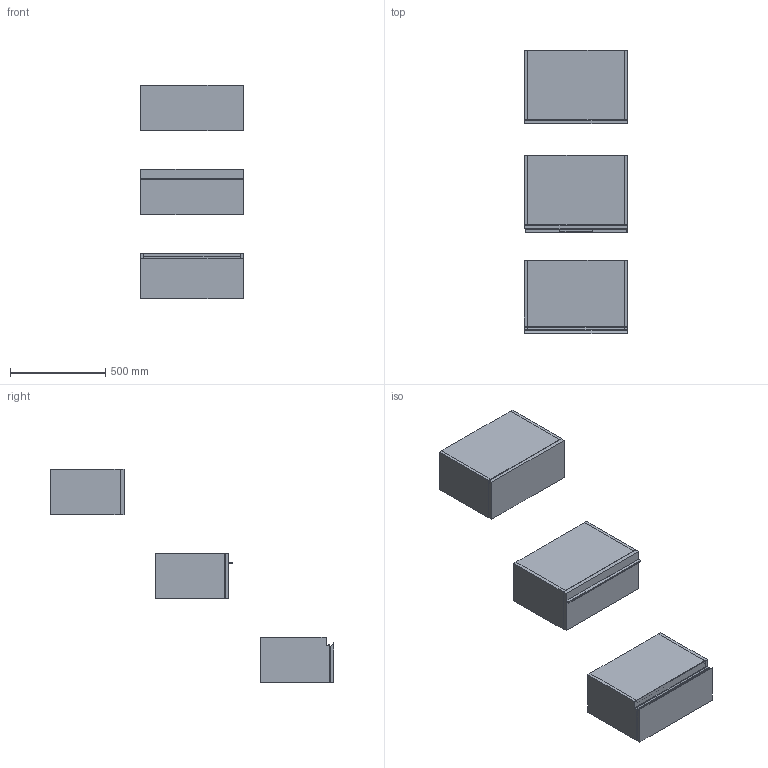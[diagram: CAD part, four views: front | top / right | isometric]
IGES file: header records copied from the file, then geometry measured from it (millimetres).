
Start section: Data from Parasolid IGES Translator 19.0.9, Copyright(c) 2006 Siemens PL M Software. All Rights Reserved.
Global section: file name: noorth-SI-H 24 D 38,8 W 54_8245.igs; native system: By Siemens PLM Incorporated; preprocessor: XPlus GENERIC/IGES 19.0.9; author: Noname; organization: Noname; date: 20200530.103800; units: metre
Bounding box: 541.02 x 1485.97 x 1120 mm (x, y, z)
Volume: 34002453.9 mm3; surface area: 5099061.2 mm2
Topology: 20 solids, 20 shells, 178 faces, 382 edges, 234 vertices
Faces by surface type: plane 134, extrusion 16, bspline 16, cylinder 12
